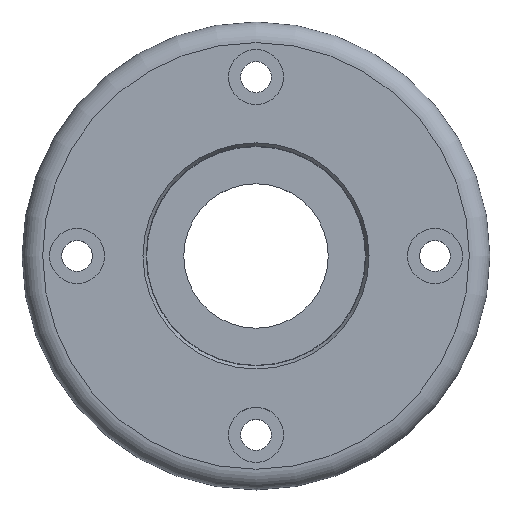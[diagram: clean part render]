
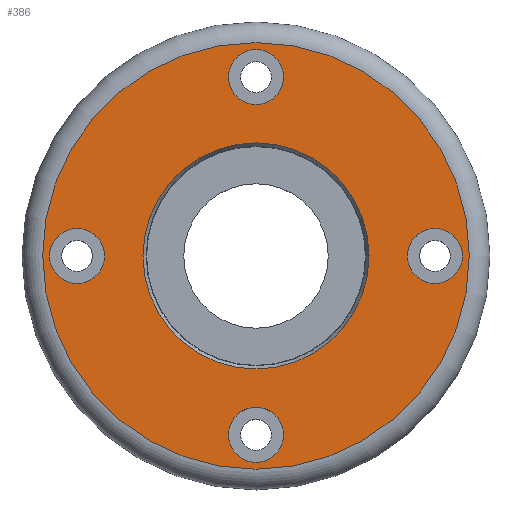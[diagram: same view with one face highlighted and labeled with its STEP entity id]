
A CAD part, top view. The second image highlights one B-rep face of the part: STEP entity #386.
In plain terms, the highlighted planar face has unit normal (0, 0, 1).
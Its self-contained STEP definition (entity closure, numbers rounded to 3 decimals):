
#65=FACE_BOUND('',#126,.T.);
#66=FACE_BOUND('',#127,.T.);
#67=FACE_BOUND('',#128,.T.);
#68=FACE_BOUND('',#129,.T.);
#69=FACE_BOUND('',#130,.T.);
#94=FACE_OUTER_BOUND('',#125,.T.);
#125=EDGE_LOOP('',(#322));
#126=EDGE_LOOP('',(#323));
#127=EDGE_LOOP('',(#324));
#128=EDGE_LOOP('',(#325));
#129=EDGE_LOOP('',(#326));
#130=EDGE_LOOP('',(#327));
#148=CIRCLE('',#422,4.);
#152=CIRCLE('',#429,4.);
#156=CIRCLE('',#436,4.);
#160=CIRCLE('',#443,4.);
#166=CIRCLE('',#454,16.433);
#170=CIRCLE('',#460,31.);
#183=VERTEX_POINT('',#624);
#187=VERTEX_POINT('',#637);
#191=VERTEX_POINT('',#650);
#195=VERTEX_POINT('',#663);
#201=VERTEX_POINT('',#684);
#205=VERTEX_POINT('',#696);
#215=EDGE_CURVE('',#183,#183,#148,.T.);
#221=EDGE_CURVE('',#187,#187,#152,.T.);
#227=EDGE_CURVE('',#191,#191,#156,.T.);
#233=EDGE_CURVE('',#195,#195,#160,.T.);
#243=EDGE_CURVE('',#201,#201,#166,.T.);
#249=EDGE_CURVE('',#205,#205,#170,.T.);
#322=ORIENTED_EDGE('',*,*,#249,.F.);
#323=ORIENTED_EDGE('',*,*,#215,.T.);
#324=ORIENTED_EDGE('',*,*,#221,.T.);
#325=ORIENTED_EDGE('',*,*,#227,.T.);
#326=ORIENTED_EDGE('',*,*,#233,.T.);
#327=ORIENTED_EDGE('',*,*,#243,.F.);
#365=PLANE('',#459);
#386=ADVANCED_FACE('',(#94,#65,#66,#67,#68,#69),#365,.T.);
#422=AXIS2_PLACEMENT_3D('',#625,#489,#490);
#429=AXIS2_PLACEMENT_3D('',#638,#505,#506);
#436=AXIS2_PLACEMENT_3D('',#651,#521,#522);
#443=AXIS2_PLACEMENT_3D('',#664,#537,#538);
#454=AXIS2_PLACEMENT_3D('',#685,#563,#564);
#459=AXIS2_PLACEMENT_3D('',#695,#575,#576);
#460=AXIS2_PLACEMENT_3D('',#697,#577,#578);
#489=DIRECTION('center_axis',(0.,0.,-1.));
#490=DIRECTION('ref_axis',(1.,0.,0.));
#505=DIRECTION('center_axis',(0.,0.,-1.));
#506=DIRECTION('ref_axis',(1.,0.,0.));
#521=DIRECTION('center_axis',(0.,0.,-1.));
#522=DIRECTION('ref_axis',(1.,0.,0.));
#537=DIRECTION('center_axis',(0.,0.,-1.));
#538=DIRECTION('ref_axis',(1.,0.,0.));
#563=DIRECTION('center_axis',(0.,0.,1.));
#564=DIRECTION('ref_axis',(-1.,0.,0.));
#575=DIRECTION('center_axis',(0.,0.,1.));
#576=DIRECTION('ref_axis',(1.,0.,0.));
#577=DIRECTION('center_axis',(0.,0.,-1.));
#578=DIRECTION('ref_axis',(-1.,0.,0.));
#624=CARTESIAN_POINT('',(-4.,-26.,10.));
#625=CARTESIAN_POINT('Origin',(0.,-26.,10.));
#637=CARTESIAN_POINT('',(-4.,26.,10.));
#638=CARTESIAN_POINT('Origin',(0.,26.,10.));
#650=CARTESIAN_POINT('',(-30.,0.,10.));
#651=CARTESIAN_POINT('Origin',(-26.,0.,10.));
#663=CARTESIAN_POINT('',(22.,0.,10.));
#664=CARTESIAN_POINT('Origin',(26.,0.,10.));
#684=CARTESIAN_POINT('',(16.433,0.,10.));
#685=CARTESIAN_POINT('Origin',(0.,0.,10.));
#695=CARTESIAN_POINT('Origin',(0.,0.,
10.));
#696=CARTESIAN_POINT('',(-31.,0.,10.));
#697=CARTESIAN_POINT('Origin',(0.,0.,10.));
